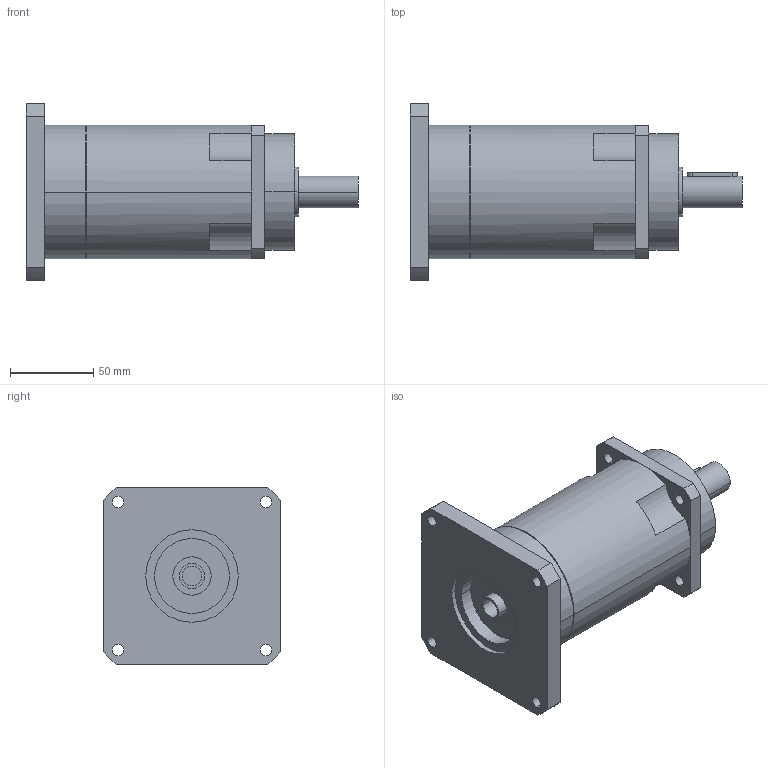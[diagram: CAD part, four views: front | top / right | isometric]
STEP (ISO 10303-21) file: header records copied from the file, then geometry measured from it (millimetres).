
FILE_DESCRIPTION(('CoCreate Modeling STEP Export'),'2;1');
FILE_NAME('GPR100_ig-48-64-80-100-120-144-180-216_19_B5_12.7_P02.stp','2014-08-26T11:54:12',(''),(''),'CoCreate Modeling STEP processor for AP214 (Solid Model)','CoCreate Modeling 16.00C 25-Feb-2009 (C) Parametric Technology GmbH','');
FILE_SCHEMA(('AUTOMOTIVE_DESIGN { 1 0 10303 214 1 1 1 1 }'));
Length unit declared in the file: millimetre
Products named in the file (2): GPR100_ig-48-64-80-100-120-144-180-216_19_B5_12.7_P02
Assembly tree (1 placements, depth 2):
  GPR100_ig-48-64-80-100-120-144-180-216_19_B5_12.7_P02
    GPR100_ig-48-64-80-100-120-144-180-216_19_B5_12.7_P02
Bounding box: 199.4 x 106.5 x 106.5 mm (x, y, z)
Volume: 847774 mm3; surface area: 74740 mm2
Topology: 1 solids, 1 shells, 89 faces, 245 edges, 167 vertices
Faces by surface type: cylinder 52, plane 31, cone 6
Entity records: 2602 total; most frequent: ORIENTED_EDGE 486, CARTESIAN_POINT 472, DIRECTION 386, EDGE_CURVE 243, VERTEX_POINT 167, AXIS2_PLACEMENT_3D 145, EDGE_LOOP 116, VECTOR 96
